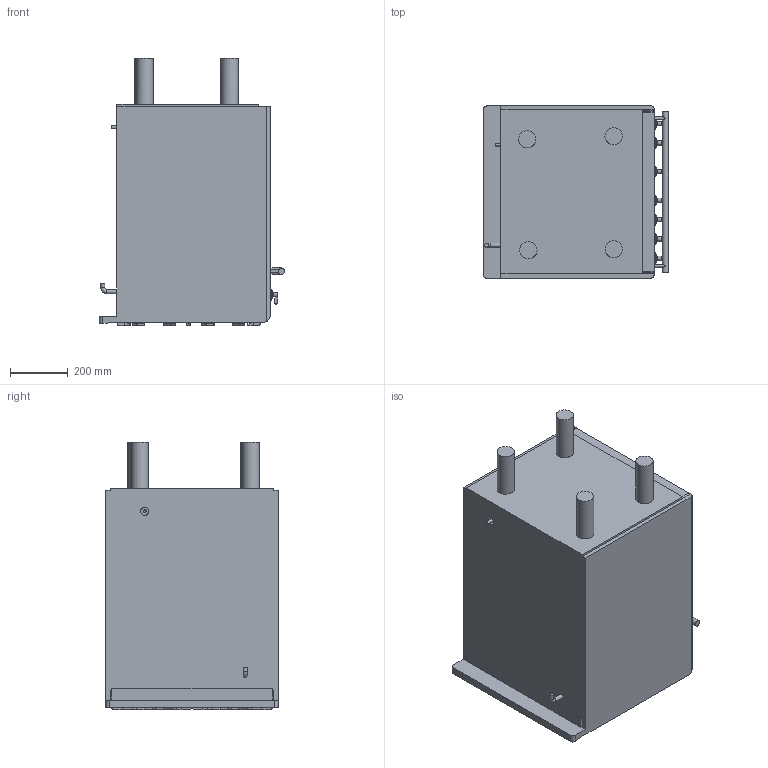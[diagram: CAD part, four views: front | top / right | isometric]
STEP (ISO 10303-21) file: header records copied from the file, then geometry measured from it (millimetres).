
FILE_DESCRIPTION(/* description */ ('Unknown'),/* implementation_level */ '2;1');
FILE_NAME(/* name */ 'CX61GMBL',/* time_stamp */ '2025-04-10T16:14:52+02:00',/* author */ ('Unknown'),/* organization */ ('Unknown'),/* preprocessor_version */ 'ST-DEVELOPER v16.7',/* originating_system */ 'DEX',/* authorisation */ $);
FILE_SCHEMA (('AUTOMOTIVE_DESIGN {1 0 10303 214 3 1 1}'));
Length unit declared in the file: millimetre
Products named in the file (1): CX61GMBL
Bounding box: 642.5 x 598 x 929 mm (x, y, z)
Volume: 222647280.9 mm3; surface area: 3733668.4 mm2
Topology: 2 solids, 2 shells, 814 faces, 2251 edges, 1499 vertices
Faces by surface type: plane 436, cylinder 256, torus 68, cone 40, bspline 12, sphere 2
Full cylindrical faces by diameter (mm): 4.608 x6, 6 x7, 7 x2, 10 x1, 14 x2, 14.996 x7, 17 x7, 22 x8, 28 x1, 55 x1, 60 x4, 60.611 x1, 65.5 x1, 75 x2, 85.5 x2, 85.7 x1, 131 x1, 147 x1
Entity records: 30985 total; most frequent: CARTESIAN_POINT 5309, DIRECTION 4130, ORIENTED_EDGE 4024, EDGE_CURVE 2012, AXIS2_PLACEMENT_3D 1445, VERTEX_POINT 1400, LINE 1240, VECTOR 1240
